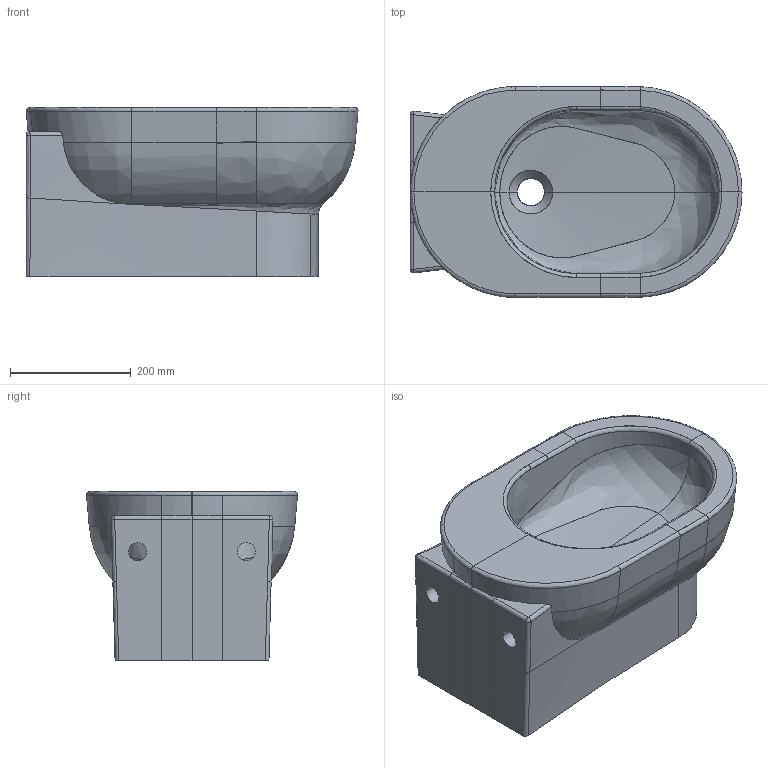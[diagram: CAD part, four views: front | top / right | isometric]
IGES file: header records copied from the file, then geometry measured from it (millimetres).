
Start section: START RECORD GO HERE.
Global section: file name: 5246_BIDET SOSP M2 55.igs; native system: DASSAULT SYSTEMES CATIA V5 R19 - www.3ds.com; preprocessor: CATIA Version 5 Release 19 SP 5 ; author: gioge; organization: LAPTOP-G94B6G74; date: 20200630.120708; units: millimetre
Bounding box: 549.43 x 349.14 x 280 mm (x, y, z)
Surface area: 684983 mm2 (no closed solid volume)
Topology: 0 solids, 0 shells, 92 faces, 429 edges, 428 vertices
Faces by surface type: bspline 60, plane 16, revolution 14, extrusion 2
